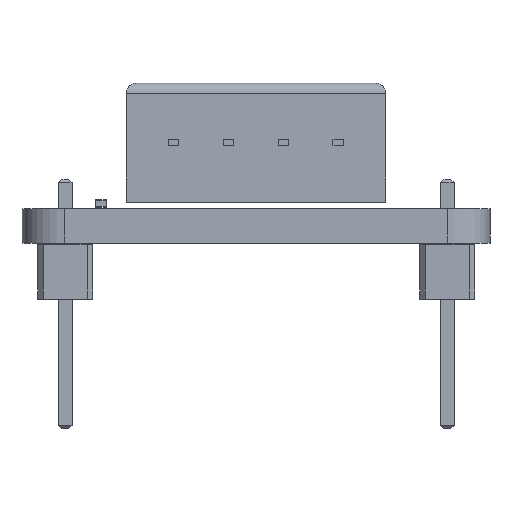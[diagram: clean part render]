
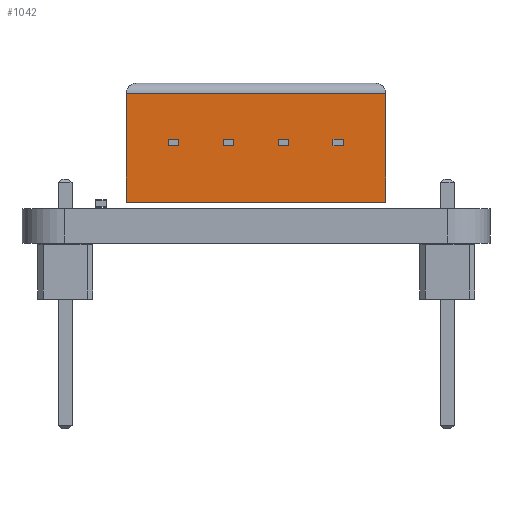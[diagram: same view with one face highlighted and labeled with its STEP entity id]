
A CAD part, left-side view. The second image highlights one B-rep face of the part: STEP entity #1042.
In plain terms, the highlighted planar face has unit normal (-1, 0, 0) as drawn and (0, 0, -1) by its records, which use the part's own axes.
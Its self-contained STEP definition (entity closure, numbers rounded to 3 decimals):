
#951 = VERTEX_POINT('',#952);
#952 = CARTESIAN_POINT('',(-0.15,-0.25,0.));
#960 = VERTEX_POINT('',#961);
#961 = CARTESIAN_POINT('',(-0.15,0.25,0.));
#967 = EDGE_CURVE('',#951,#960,#968,.T.);
#968 = LINE('',#969,#970);
#969 = CARTESIAN_POINT('',(-0.15,-2.03,0.));
#970 = VECTOR('',#971,1.);
#971 = DIRECTION('',(0.,1.,0.));
#982 = VERTEX_POINT('',#983);
#983 = CARTESIAN_POINT('',(0.15,-0.25,0.));
#991 = EDGE_CURVE('',#982,#951,#992,.T.);
#992 = LINE('',#993,#994);
#993 = CARTESIAN_POINT('',(-0.075,-0.25,0.));
#994 = VECTOR('',#995,1.);
#995 = DIRECTION('',(-1.,0.,0.));
#1006 = VERTEX_POINT('',#1007);
#1007 = CARTESIAN_POINT('',(0.15,0.25,0.));
#1015 = EDGE_CURVE('',#1006,#960,#1016,.T.);
#1016 = LINE('',#1017,#1018);
#1017 = CARTESIAN_POINT('',(-0.075,0.25,0.));
#1018 = VECTOR('',#1019,1.);
#1019 = DIRECTION('',(-1.,0.,0.));
#1032 = EDGE_CURVE('',#982,#1006,#1033,.T.);
#1033 = LINE('',#1034,#1035);
#1034 = CARTESIAN_POINT('',(0.15,-2.03,0.));
#1035 = VECTOR('',#1036,1.);
#1036 = DIRECTION('',(0.,1.,0.));
#1042 = ADVANCED_FACE('',(#1043,#1077,#1083,#1117,#1151),#1185,.T.);
#1043 = FACE_BOUND('',#1044,.T.);
#1044 = EDGE_LOOP('',(#1045,#1055,#1063,#1071));
#1045 = ORIENTED_EDGE('',*,*,#1046,.T.);
#1046 = EDGE_CURVE('',#1047,#1049,#1051,.T.);
#1047 = VERTEX_POINT('',#1048);
#1048 = CARTESIAN_POINT('',(-2.25,2.19,0.));
#1049 = VERTEX_POINT('',#1050);
#1050 = CARTESIAN_POINT('',(2.75,2.19,0.));
#1051 = LINE('',#1052,#1053);
#1052 = CARTESIAN_POINT('',(-2.75,2.19,0.));
#1053 = VECTOR('',#1054,1.);
#1054 = DIRECTION('',(1.,0.,0.));
#1055 = ORIENTED_EDGE('',*,*,#1056,.T.);
#1056 = EDGE_CURVE('',#1049,#1057,#1059,.T.);
#1057 = VERTEX_POINT('',#1058);
#1058 = CARTESIAN_POINT('',(2.75,-9.81,0.));
#1059 = LINE('',#1060,#1061);
#1060 = CARTESIAN_POINT('',(2.75,2.19,0.));
#1061 = VECTOR('',#1062,1.);
#1062 = DIRECTION('',(0.,-1.,0.));
#1063 = ORIENTED_EDGE('',*,*,#1064,.T.);
#1064 = EDGE_CURVE('',#1057,#1065,#1067,.T.);
#1065 = VERTEX_POINT('',#1066);
#1066 = CARTESIAN_POINT('',(-2.25,-9.81,0.));
#1067 = LINE('',#1068,#1069);
#1068 = CARTESIAN_POINT('',(2.75,-9.81,0.));
#1069 = VECTOR('',#1070,1.);
#1070 = DIRECTION('',(-1.,0.,0.));
#1071 = ORIENTED_EDGE('',*,*,#1072,.T.);
#1072 = EDGE_CURVE('',#1065,#1047,#1073,.T.);
#1073 = LINE('',#1074,#1075);
#1074 = CARTESIAN_POINT('',(-2.25,-9.81,0.));
#1075 = VECTOR('',#1076,1.);
#1076 = DIRECTION('',(0.,1.,0.));
#1077 = FACE_BOUND('',#1078,.T.);
#1078 = EDGE_LOOP('',(#1079,#1080,#1081,#1082));
#1079 = ORIENTED_EDGE('',*,*,#967,.F.);
#1080 = ORIENTED_EDGE('',*,*,#991,.F.);
#1081 = ORIENTED_EDGE('',*,*,#1032,.T.);
#1082 = ORIENTED_EDGE('',*,*,#1015,.T.);
#1083 = FACE_BOUND('',#1084,.T.);
#1084 = EDGE_LOOP('',(#1085,#1095,#1103,#1111));
#1085 = ORIENTED_EDGE('',*,*,#1086,.F.);
#1086 = EDGE_CURVE('',#1087,#1089,#1091,.T.);
#1087 = VERTEX_POINT('',#1088);
#1088 = CARTESIAN_POINT('',(-0.15,-2.79,0.));
#1089 = VERTEX_POINT('',#1090);
#1090 = CARTESIAN_POINT('',(-0.15,-2.29,0.));
#1091 = LINE('',#1092,#1093);
#1092 = CARTESIAN_POINT('',(-0.15,-3.3,0.));
#1093 = VECTOR('',#1094,1.);
#1094 = DIRECTION('',(0.,1.,0.));
#1095 = ORIENTED_EDGE('',*,*,#1096,.F.);
#1096 = EDGE_CURVE('',#1097,#1087,#1099,.T.);
#1097 = VERTEX_POINT('',#1098);
#1098 = CARTESIAN_POINT('',(0.15,-2.79,0.));
#1099 = LINE('',#1100,#1101);
#1100 = CARTESIAN_POINT('',(-0.075,-2.79,0.));
#1101 = VECTOR('',#1102,1.);
#1102 = DIRECTION('',(-1.,0.,0.));
#1103 = ORIENTED_EDGE('',*,*,#1104,.T.);
#1104 = EDGE_CURVE('',#1097,#1105,#1107,.T.);
#1105 = VERTEX_POINT('',#1106);
#1106 = CARTESIAN_POINT('',(0.15,-2.29,0.));
#1107 = LINE('',#1108,#1109);
#1108 = CARTESIAN_POINT('',(0.15,-3.3,0.));
#1109 = VECTOR('',#1110,1.);
#1110 = DIRECTION('',(0.,1.,0.));
#1111 = ORIENTED_EDGE('',*,*,#1112,.T.);
#1112 = EDGE_CURVE('',#1105,#1089,#1113,.T.);
#1113 = LINE('',#1114,#1115);
#1114 = CARTESIAN_POINT('',(-0.075,-2.29,0.));
#1115 = VECTOR('',#1116,1.);
#1116 = DIRECTION('',(-1.,0.,0.));
#1117 = FACE_BOUND('',#1118,.T.);
#1118 = EDGE_LOOP('',(#1119,#1129,#1137,#1145));
#1119 = ORIENTED_EDGE('',*,*,#1120,.F.);
#1120 = EDGE_CURVE('',#1121,#1123,#1125,.T.);
#1121 = VERTEX_POINT('',#1122);
#1122 = CARTESIAN_POINT('',(-0.15,-5.33,0.));
#1123 = VERTEX_POINT('',#1124);
#1124 = CARTESIAN_POINT('',(-0.15,-4.83,0.));
#1125 = LINE('',#1126,#1127);
#1126 = CARTESIAN_POINT('',(-0.15,-4.57,0.));
#1127 = VECTOR('',#1128,1.);
#1128 = DIRECTION('',(0.,1.,0.));
#1129 = ORIENTED_EDGE('',*,*,#1130,.F.);
#1130 = EDGE_CURVE('',#1131,#1121,#1133,.T.);
#1131 = VERTEX_POINT('',#1132);
#1132 = CARTESIAN_POINT('',(0.15,-5.33,0.));
#1133 = LINE('',#1134,#1135);
#1134 = CARTESIAN_POINT('',(-0.075,-5.33,0.));
#1135 = VECTOR('',#1136,1.);
#1136 = DIRECTION('',(-1.,0.,0.));
#1137 = ORIENTED_EDGE('',*,*,#1138,.T.);
#1138 = EDGE_CURVE('',#1131,#1139,#1141,.T.);
#1139 = VERTEX_POINT('',#1140);
#1140 = CARTESIAN_POINT('',(0.15,-4.83,0.));
#1141 = LINE('',#1142,#1143);
#1142 = CARTESIAN_POINT('',(0.15,-4.57,0.));
#1143 = VECTOR('',#1144,1.);
#1144 = DIRECTION('',(0.,1.,0.));
#1145 = ORIENTED_EDGE('',*,*,#1146,.T.);
#1146 = EDGE_CURVE('',#1139,#1123,#1147,.T.);
#1147 = LINE('',#1148,#1149);
#1148 = CARTESIAN_POINT('',(-0.075,-4.83,0.));
#1149 = VECTOR('',#1150,1.);
#1150 = DIRECTION('',(-1.,0.,0.));
#1151 = FACE_BOUND('',#1152,.T.);
#1152 = EDGE_LOOP('',(#1153,#1163,#1171,#1179));
#1153 = ORIENTED_EDGE('',*,*,#1154,.F.);
#1154 = EDGE_CURVE('',#1155,#1157,#1159,.T.);
#1155 = VERTEX_POINT('',#1156);
#1156 = CARTESIAN_POINT('',(-0.15,-7.87,0.));
#1157 = VERTEX_POINT('',#1158);
#1158 = CARTESIAN_POINT('',(-0.15,-7.37,0.));
#1159 = LINE('',#1160,#1161);
#1160 = CARTESIAN_POINT('',(-0.15,-5.84,0.));
#1161 = VECTOR('',#1162,1.);
#1162 = DIRECTION('',(0.,1.,0.));
#1163 = ORIENTED_EDGE('',*,*,#1164,.F.);
#1164 = EDGE_CURVE('',#1165,#1155,#1167,.T.);
#1165 = VERTEX_POINT('',#1166);
#1166 = CARTESIAN_POINT('',(0.15,-7.87,0.));
#1167 = LINE('',#1168,#1169);
#1168 = CARTESIAN_POINT('',(-0.075,-7.87,0.));
#1169 = VECTOR('',#1170,1.);
#1170 = DIRECTION('',(-1.,0.,0.));
#1171 = ORIENTED_EDGE('',*,*,#1172,.T.);
#1172 = EDGE_CURVE('',#1165,#1173,#1175,.T.);
#1173 = VERTEX_POINT('',#1174);
#1174 = CARTESIAN_POINT('',(0.15,-7.37,0.));
#1175 = LINE('',#1176,#1177);
#1176 = CARTESIAN_POINT('',(0.15,-5.84,0.));
#1177 = VECTOR('',#1178,1.);
#1178 = DIRECTION('',(0.,1.,0.));
#1179 = ORIENTED_EDGE('',*,*,#1180,.T.);
#1180 = EDGE_CURVE('',#1173,#1157,#1181,.T.);
#1181 = LINE('',#1182,#1183);
#1182 = CARTESIAN_POINT('',(-0.075,-7.37,0.));
#1183 = VECTOR('',#1184,1.);
#1184 = DIRECTION('',(-1.,0.,0.));
#1185 = PLANE('',#1186);
#1186 = AXIS2_PLACEMENT_3D('',#1187,#1188,#1189);
#1187 = CARTESIAN_POINT('',(0.,-3.81,0.));
#1188 = DIRECTION('',(-0.,-0.,-1.));
#1189 = DIRECTION('',(-1.,0.,0.));
